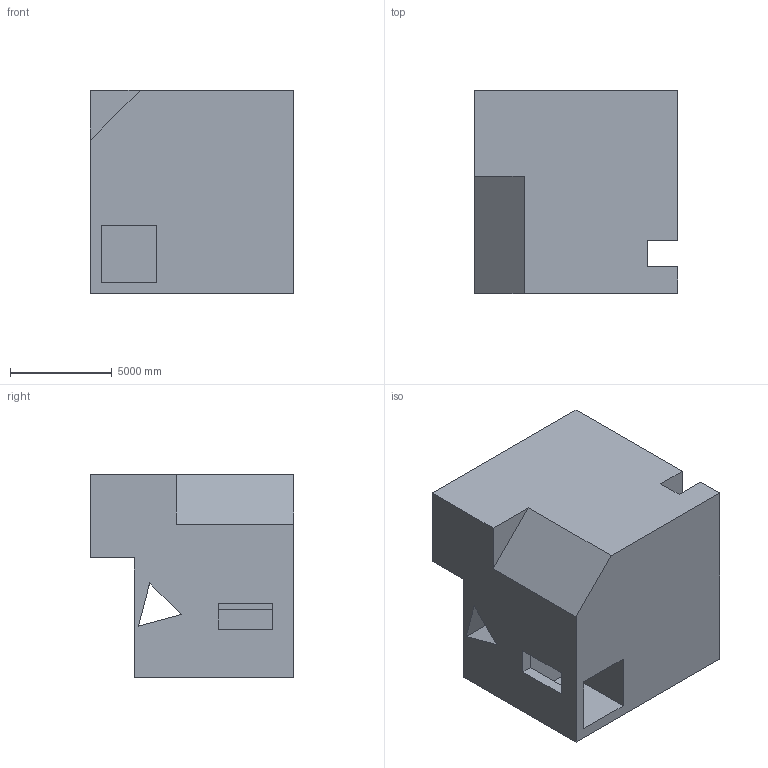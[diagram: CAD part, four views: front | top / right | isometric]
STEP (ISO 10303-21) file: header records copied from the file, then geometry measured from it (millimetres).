
FILE_DESCRIPTION (( 'STEP AP203' ), '1' );
FILE_NAME ('520.STEP', '2022-07-29T11:37:45', ( 'user' ), ( '' ), 'SwSTEP 2.0', 'SolidWorks 2021', '' );
FILE_SCHEMA (( 'CONFIG_CONTROL_DESIGN' ));
Length unit declared in the file: centimetre
Products named in the file (1): 520
Bounding box: 10000 x 10000 x 10000 mm (x, y, z)
Volume: 763353242666.1 mm3; surface area: 684601361 mm2
Topology: 1 solids, 1 shells, 28 faces, 84 edges, 56 vertices
Faces by surface type: plane 28
Entity records: 1017 total; most frequent: CARTESIAN_POINT 169, ORIENTED_EDGE 168, DIRECTION 142, LINE 84, VECTOR 84, EDGE_CURVE 84, VERTEX_POINT 56, EDGE_LOOP 32
